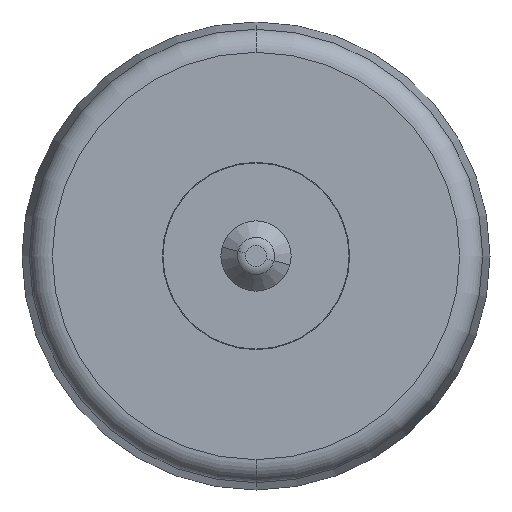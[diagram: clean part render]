
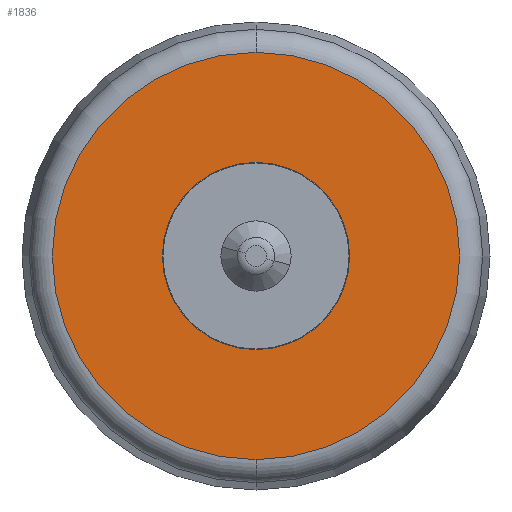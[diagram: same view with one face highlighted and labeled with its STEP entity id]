
A CAD part, front view. The second image highlights one B-rep face of the part: STEP entity #1836.
In plain terms, the highlighted planar face has unit normal (0, -1, 0).
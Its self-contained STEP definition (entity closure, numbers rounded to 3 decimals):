
#1165 = EDGE_LOOP ( 'NONE', ( #7987, #2611 ) ) ;
#1522 = ORIENTED_EDGE ( 'NONE', *, *, #17130, .T. ) ;
#1836 = ADVANCED_FACE ( 'NONE', ( #4444, #15365 ), #6648, .T. ) ;
#2611 = ORIENTED_EDGE ( 'NONE', *, *, #5377, .T. ) ;
#3330 = CARTESIAN_POINT ( 'NONE',  ( 0., 0.13, 0. ) ) ;
#3974 = DIRECTION ( 'NONE',  ( 0., 0., -1. ) ) ;
#4444 = FACE_OUTER_BOUND ( 'NONE', #1165, .T. ) ;
#4550 = ORIENTED_EDGE ( 'NONE', *, *, #7793, .T. ) ;
#4717 = VERTEX_POINT ( 'NONE', #18814 ) ;
#5015 = AXIS2_PLACEMENT_3D ( 'NONE', #6535, #17001, #20476 ) ;
#5377 = EDGE_CURVE ( 'NONE', #18991, #4717, #7243, .T. ) ;
#5534 = VERTEX_POINT ( 'NONE', #22098 ) ;
#6204 = CIRCLE ( 'NONE', #22893, 8.702 ) ;
#6535 = CARTESIAN_POINT ( 'NONE',  ( -11.803, 0.13, -15. ) ) ;
#6648 = PLANE ( 'NONE',  #5015 ) ;
#7243 = CIRCLE ( 'NONE', #22503, 8.702 ) ;
#7793 = EDGE_CURVE ( 'NONE', #11396, #5534, #11592, .T. ) ;
#7987 = ORIENTED_EDGE ( 'NONE', *, *, #20915, .T. ) ;
#10479 = CARTESIAN_POINT ( 'NONE',  ( 0., 0.13, -3.975 ) ) ;
#10586 = CIRCLE ( 'NONE', #14689, 3.975 ) ;
#11396 = VERTEX_POINT ( 'NONE', #10479 ) ;
#11403 = DIRECTION ( 'NONE',  ( 0., 0., -1. ) ) ;
#11515 = CARTESIAN_POINT ( 'NONE',  ( 0., 0.13, 0. ) ) ;
#11522 = CARTESIAN_POINT ( 'NONE',  ( 0., 0.13, 8.702 ) ) ;
#11592 = CIRCLE ( 'NONE', #17559, 3.975 ) ;
#13369 = DIRECTION ( 'NONE',  ( 0., 1., 0. ) ) ;
#14671 = CARTESIAN_POINT ( 'NONE',  ( 0., 0.13, 0. ) ) ;
#14689 = AXIS2_PLACEMENT_3D ( 'NONE', #11515, #13369, #11403 ) ;
#15365 = FACE_BOUND ( 'NONE', #16305, .T. ) ;
#16110 = DIRECTION ( 'NONE',  ( 0., 0., -1. ) ) ;
#16305 = EDGE_LOOP ( 'NONE', ( #4550, #1522 ) ) ;
#16424 = DIRECTION ( 'NONE',  ( 0., 0., -1. ) ) ;
#16523 = DIRECTION ( 'NONE',  ( 0., -1., 0. ) ) ;
#17001 = DIRECTION ( 'NONE',  ( 0., -1., 0. ) ) ;
#17130 = EDGE_CURVE ( 'NONE', #5534, #11396, #10586, .T. ) ;
#17559 = AXIS2_PLACEMENT_3D ( 'NONE', #3330, #19609, #16110 ) ;
#18814 = CARTESIAN_POINT ( 'NONE',  ( 0., 0.13, -8.702 ) ) ;
#18991 = VERTEX_POINT ( 'NONE', #11522 ) ;
#19609 = DIRECTION ( 'NONE',  ( 0., 1., 0. ) ) ;
#19801 = DIRECTION ( 'NONE',  ( 0., -1., 0. ) ) ;
#20005 = CARTESIAN_POINT ( 'NONE',  ( 0., 0.13, 0. ) ) ;
#20476 = DIRECTION ( 'NONE',  ( 0., 0., -1. ) ) ;
#20915 = EDGE_CURVE ( 'NONE', #4717, #18991, #6204, .T. ) ;
#22098 = CARTESIAN_POINT ( 'NONE',  ( 0., 0.13, 3.975 ) ) ;
#22503 = AXIS2_PLACEMENT_3D ( 'NONE', #14671, #19801, #16424 ) ;
#22893 = AXIS2_PLACEMENT_3D ( 'NONE', #20005, #16523, #3974 ) ;
